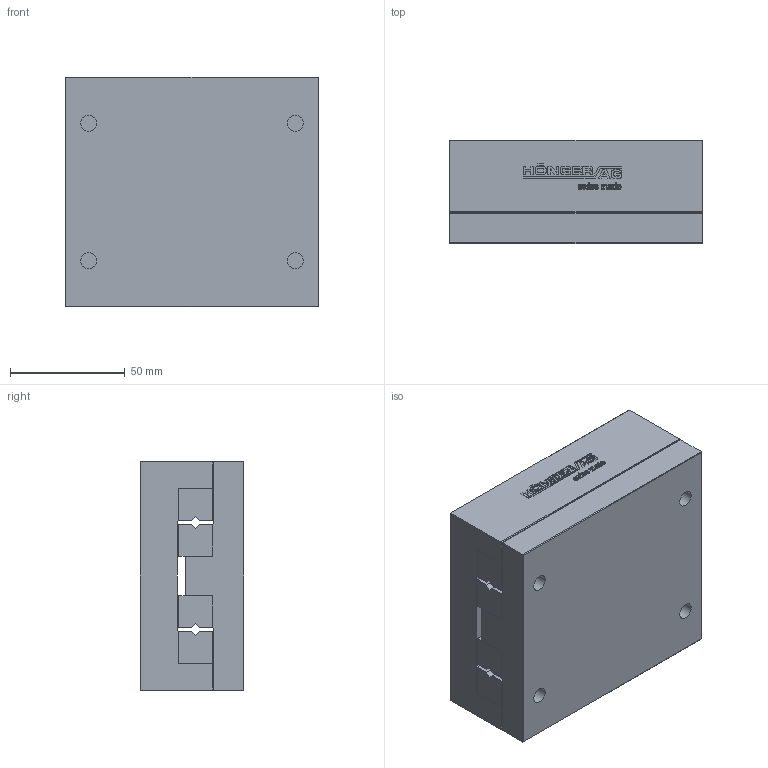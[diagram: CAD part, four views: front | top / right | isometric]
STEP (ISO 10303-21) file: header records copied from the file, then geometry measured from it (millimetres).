
FILE_DESCRIPTION(/* description */ ('STEP AP214'),/* implementation_level */ '2;1');
FILE_NAME(/* name */ 'NK 6-110-B(0)',/* time_stamp */ '2025-04-22T17:50:27+02:00',/* author */ ('License CC BY-ND 4.0'),/* organization */ ('CADENAS'),/* preprocessor_version */ 'ST-DEVELOPER v19.3',/* originating_system */ 'PARTsolutions',/* authorisation */ ' ');
FILE_SCHEMA (('AUTOMOTIVE_DESIGN {1 0 10303 214 3 1 1}'));
Length unit declared in the file: millimetre
Products named in the file (3): NK 6-110-B(0); NK 6-110-B_1; NK 6-110-B_2
Assembly tree (2 placements, depth 2):
  NK 6-110-B(0)
    NK 6-110-B_1
    NK 6-110-B_2
Bounding box: 110 x 45 x 100 mm (x, y, z)
Volume: 472662.1 mm3; surface area: 84187.3 mm2
Topology: 2 solids, 2 shells, 575 faces, 1606 edges, 1064 vertices
Faces by surface type: cylinder 302, plane 269, cone 4
Full cylindrical faces by diameter (mm): 4.917 x2, 7 x4, 11 x4
Entity records: 18661 total; most frequent: DIRECTION 3356, CARTESIAN_POINT 3230, ORIENTED_EDGE 3180, EDGE_CURVE 1590, AXIS2_PLACEMENT_3D 1188, VERTEX_POINT 1062, LINE 980, VECTOR 980
